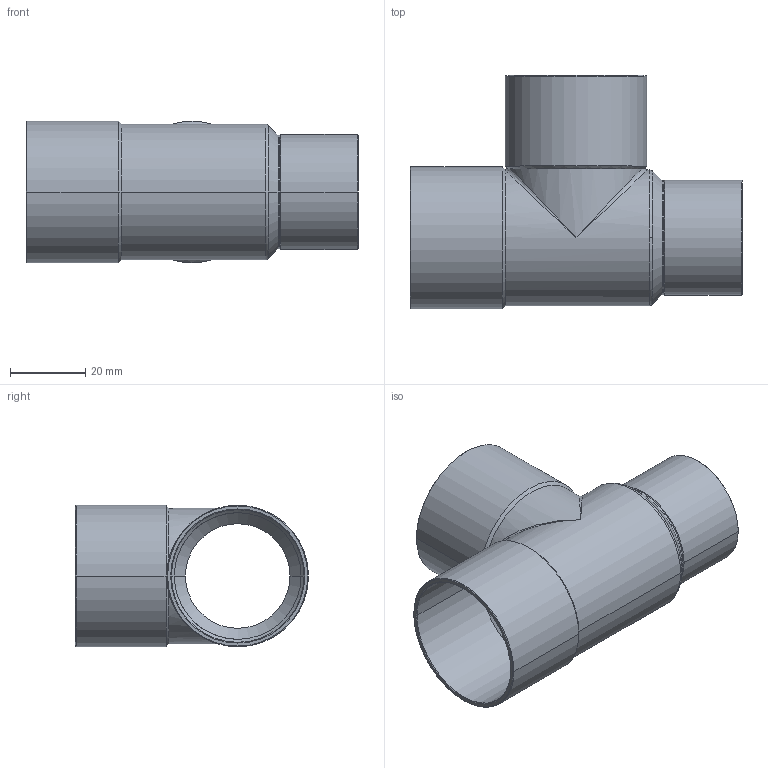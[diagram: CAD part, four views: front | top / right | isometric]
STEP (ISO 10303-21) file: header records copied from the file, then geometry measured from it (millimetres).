
FILE_DESCRIPTION((''),'2;1');
FILE_NAME('G:\Technics\CAD\Bauteile\15130\15130353528.stp','2005-11-03T13:43:01',('boden'),(''),'Autodesk Inventor 8','Autodesk Inventor 8','');
FILE_SCHEMA(('AUTOMOTIVE_DESIGN { 1 0 10303 214 1 1 1 1 }'));
Length unit declared in the file: millimetre
Products named in the file (1): 15130353528
Bounding box: 88 x 61.77 x 37.55 mm (x, y, z)
Volume: 14243.8 mm3; surface area: 24128.3 mm2
Topology: 1 solids, 1 shells, 61 faces, 147 edges, 79 vertices
Faces by surface type: cone 28, cylinder 24, bspline 4, plane 3, torus 2
Entity records: 2282 total; most frequent: CARTESIAN_POINT 878, DIRECTION 309, ORIENTED_EDGE 278, EDGE_CURVE 139, AXIS2_PLACEMENT_3D 130, VERTEX_POINT 79, CIRCLE 64, EDGE_LOOP 64
